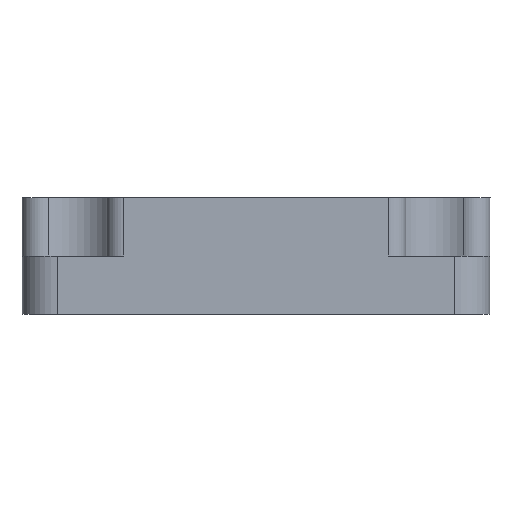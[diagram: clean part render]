
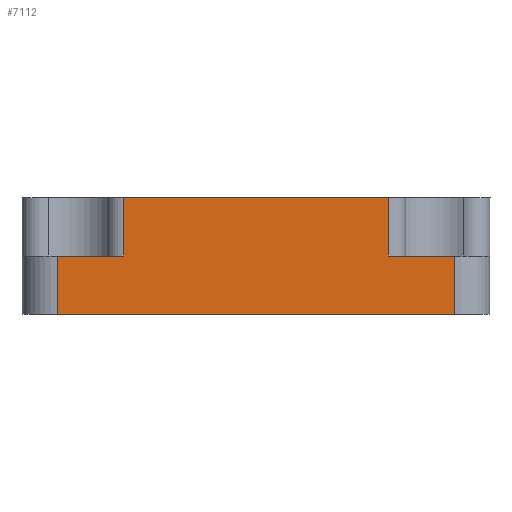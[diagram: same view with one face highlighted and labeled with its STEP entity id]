
A CAD part, front view. The second image highlights one B-rep face of the part: STEP entity #7112.
In plain terms, the highlighted planar face has unit normal (0, -1, 0).
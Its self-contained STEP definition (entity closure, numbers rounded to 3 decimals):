
#2 = VECTOR ( 'NONE', #4453, 1000. ) ;
#93 = EDGE_CURVE ( 'NONE', #5953, #1375, #5496, .T. ) ;
#180 = ORIENTED_EDGE ( 'NONE', *, *, #6616, .T. ) ;
#206 = CARTESIAN_POINT ( 'NONE',  ( 37., 0., 0. ) ) ;
#263 = LINE ( 'NONE', #4241, #6648 ) ;
#393 = CARTESIAN_POINT ( 'NONE',  ( 3., 0., 5. ) ) ;
#471 = ORIENTED_EDGE ( 'NONE', *, *, #691, .F. ) ;
#571 = LINE ( 'NONE', #393, #7242 ) ;
#648 = EDGE_CURVE ( 'NONE', #4872, #1234, #818, .T. ) ;
#691 = EDGE_CURVE ( 'NONE', #2231, #2684, #5380, .T. ) ;
#796 = LINE ( 'NONE', #3060, #2 ) ;
#818 = LINE ( 'NONE', #5447, #5559 ) ;
#895 = CARTESIAN_POINT ( 'NONE',  ( 8.702, 0., 10. ) ) ;
#1234 = VERTEX_POINT ( 'NONE', #1475 ) ;
#1375 = VERTEX_POINT ( 'NONE', #206 ) ;
#1475 = CARTESIAN_POINT ( 'NONE',  ( 3., 0., 0. ) ) ;
#1580 = CARTESIAN_POINT ( 'NONE',  ( 37., 0., 5. ) ) ;
#1863 = CARTESIAN_POINT ( 'NONE',  ( 3., 0., 5. ) ) ;
#1988 = CARTESIAN_POINT ( 'NONE',  ( 8.702, 0., 10. ) ) ;
#2067 = VERTEX_POINT ( 'NONE', #3023 ) ;
#2085 = LINE ( 'NONE', #3716, #7266 ) ;
#2098 = EDGE_CURVE ( 'NONE', #2684, #2067, #796, .T. ) ;
#2150 = DIRECTION ( 'NONE',  ( 0., 0., -1. ) ) ;
#2231 = VERTEX_POINT ( 'NONE', #1988 ) ;
#2684 = VERTEX_POINT ( 'NONE', #6062 ) ;
#3023 = CARTESIAN_POINT ( 'NONE',  ( 31.298, 0., 5. ) ) ;
#3060 = CARTESIAN_POINT ( 'NONE',  ( 31.298, 0., 10. ) ) ;
#3087 = DIRECTION ( 'NONE',  ( 1., 0., 0. ) ) ;
#3098 = ORIENTED_EDGE ( 'NONE', *, *, #93, .F. ) ;
#3154 = DIRECTION ( 'NONE',  ( 0., 0., -1. ) ) ;
#3198 = CARTESIAN_POINT ( 'NONE',  ( 37., 0., 5. ) ) ;
#3536 = ORIENTED_EDGE ( 'NONE', *, *, #2098, .F. ) ;
#3581 = EDGE_CURVE ( 'NONE', #1234, #1375, #263, .T. ) ;
#3716 = CARTESIAN_POINT ( 'NONE',  ( 8.702, 0., 10. ) ) ;
#3767 = EDGE_CURVE ( 'NONE', #4872, #3840, #571, .T. ) ;
#3785 = CARTESIAN_POINT ( 'NONE',  ( 3., 0., 5. ) ) ;
#3840 = VERTEX_POINT ( 'NONE', #5136 ) ;
#3856 = LINE ( 'NONE', #3785, #6796 ) ;
#3989 = DIRECTION ( 'NONE',  ( 1., 0., 0. ) ) ;
#4091 = PLANE ( 'NONE',  #5020 ) ;
#4241 = CARTESIAN_POINT ( 'NONE',  ( 3., 0., 0. ) ) ;
#4290 = ORIENTED_EDGE ( 'NONE', *, *, #648, .T. ) ;
#4341 = DIRECTION ( 'NONE',  ( 1., 0., 0. ) ) ;
#4453 = DIRECTION ( 'NONE',  ( 0., 0., -1. ) ) ;
#4533 = DIRECTION ( 'NONE',  ( 0., 0., -1. ) ) ;
#4872 = VERTEX_POINT ( 'NONE', #6514 ) ;
#4894 = DIRECTION ( 'NONE',  ( 0., 1., 0. ) ) ;
#5020 = AXIS2_PLACEMENT_3D ( 'NONE', #1863, #4894, #7156 ) ;
#5136 = CARTESIAN_POINT ( 'NONE',  ( 8.702, 0., 5. ) ) ;
#5213 = ORIENTED_EDGE ( 'NONE', *, *, #3581, .T. ) ;
#5236 = EDGE_LOOP ( 'NONE', ( #180, #6647, #4290, #5213, #3098, #5503, #3536, #471 ) ) ;
#5380 = LINE ( 'NONE', #895, #6506 ) ;
#5447 = CARTESIAN_POINT ( 'NONE',  ( 3., 0., 5. ) ) ;
#5496 = LINE ( 'NONE', #3198, #6750 ) ;
#5503 = ORIENTED_EDGE ( 'NONE', *, *, #6662, .F. ) ;
#5559 = VECTOR ( 'NONE', #3154, 1000. ) ;
#5863 = DIRECTION ( 'NONE',  ( 1., 0., 0. ) ) ;
#5953 = VERTEX_POINT ( 'NONE', #1580 ) ;
#6062 = CARTESIAN_POINT ( 'NONE',  ( 31.298, 0., 10. ) ) ;
#6506 = VECTOR ( 'NONE', #5863, 1000. ) ;
#6514 = CARTESIAN_POINT ( 'NONE',  ( 3., 0., 5. ) ) ;
#6616 = EDGE_CURVE ( 'NONE', #2231, #3840, #2085, .T. ) ;
#6647 = ORIENTED_EDGE ( 'NONE', *, *, #3767, .F. ) ;
#6648 = VECTOR ( 'NONE', #3087, 1000. ) ;
#6662 = EDGE_CURVE ( 'NONE', #2067, #5953, #3856, .T. ) ;
#6750 = VECTOR ( 'NONE', #4533, 1000. ) ;
#6796 = VECTOR ( 'NONE', #4341, 1000. ) ;
#6904 = FACE_OUTER_BOUND ( 'NONE', #5236, .T. ) ;
#7112 = ADVANCED_FACE ( 'NONE', ( #6904 ), #4091, .F. ) ;
#7156 = DIRECTION ( 'NONE',  ( -1., 0., 0. ) ) ;
#7242 = VECTOR ( 'NONE', #3989, 1000. ) ;
#7266 = VECTOR ( 'NONE', #2150, 1000. ) ;
